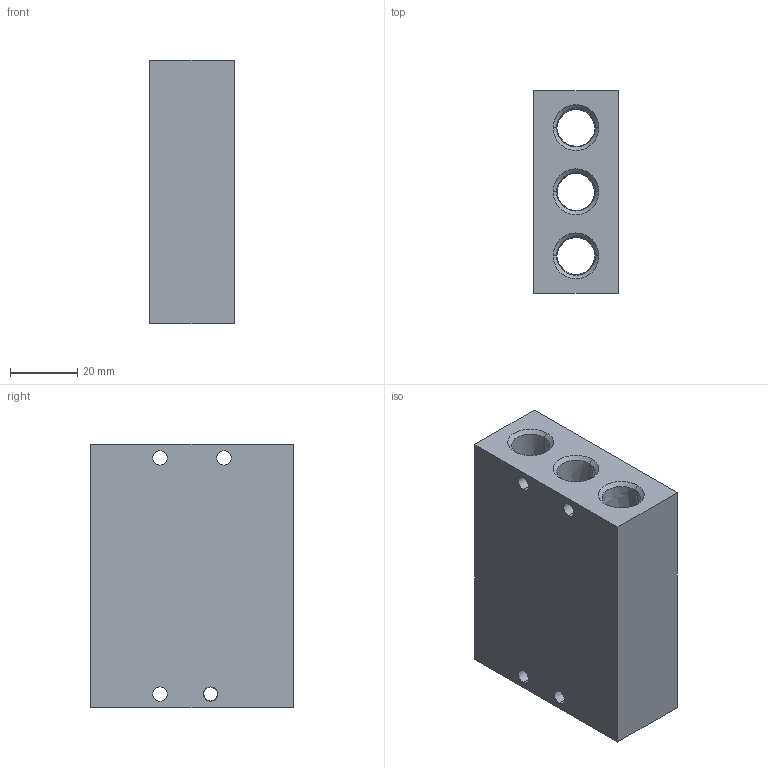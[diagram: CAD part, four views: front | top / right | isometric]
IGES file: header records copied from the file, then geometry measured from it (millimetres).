
Global section: file name: No Iges File Name specified; native system: AutoDesk Inventor R11.0; preprocessor: AutoDesk Inventor Iges Exporter R11.0; author: No Author specified; organization: No Organization specified; date: 20061201.115605; units: millimetre
Bounding box: 25 x 60 x 78 mm (x, y, z)
Volume: 85692.3 mm3; surface area: 26896.5 mm2
Topology: 1 solids, 1 shells, 132 faces, 343 edges, 207 vertices
Faces by surface type: bspline 120, revolution 6, plane 6
